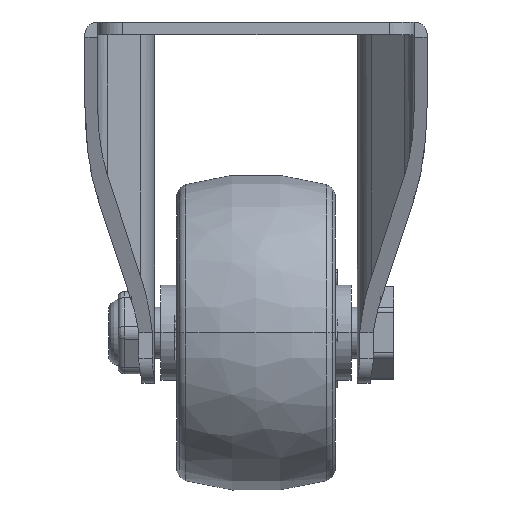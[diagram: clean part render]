
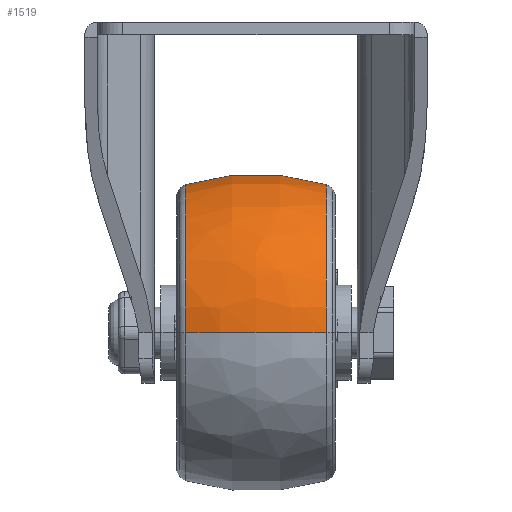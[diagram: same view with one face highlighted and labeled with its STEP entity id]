
A CAD part, left-side view. The second image highlights one B-rep face of the part: STEP entity #1519.
In plain terms, the highlighted free-form (B-spline) face has degree [3, 3] with [4, 4] control points.
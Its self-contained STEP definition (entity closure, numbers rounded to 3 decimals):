
#40=(
BOUNDED_SURFACE()
B_SPLINE_SURFACE(3,3,((#22896,#22897,#22898,#22899),(#22900,#22901,#22902,
#22903),(#22904,#22905,#22906,#22907),(#22908,#22909,#22910,#22911)),
 .UNSPECIFIED.,.F.,.F.,.F.)
B_SPLINE_SURFACE_WITH_KNOTS((4,4),(4,4),(0.,1.),(0.,1.),.UNSPECIFIED.)
GEOMETRIC_REPRESENTATION_ITEM()
RATIONAL_B_SPLINE_SURFACE(((1.,0.333,0.333,1.),(0.971,
0.324,0.324,0.971),(0.971,
0.324,0.324,0.971),(1.,0.333,
0.333,1.)))
REPRESENTATION_ITEM('')
SURFACE()
);
#734=FACE_OUTER_BOUND('',#3448,.T.);
#1519=ADVANCED_FACE('',(#734),#40,.T.);
#3448=EDGE_LOOP('',(#6507,#6508,#6509,#6510));
#4047=CIRCLE('',#15088,23.348);
#4050=CIRCLE('',#15103,38.);
#4051=CIRCLE('',#15104,23.348);
#4052=CIRCLE('',#15105,38.);
#6507=ORIENTED_EDGE('',*,*,#10975,.T.);
#6508=ORIENTED_EDGE('',*,*,#10976,.T.);
#6509=ORIENTED_EDGE('',*,*,#10977,.F.);
#6510=ORIENTED_EDGE('',*,*,#10966,.T.);
#9218=VERTEX_POINT('',#22851);
#9219=VERTEX_POINT('',#22853);
#9227=VERTEX_POINT('',#22892);
#9228=VERTEX_POINT('',#22894);
#10966=EDGE_CURVE('',#9218,#9219,#4047,.T.);
#10975=EDGE_CURVE('',#9219,#9227,#4050,.T.);
#10976=EDGE_CURVE('',#9227,#9228,#4051,.T.);
#10977=EDGE_CURVE('',#9218,#9228,#4052,.T.);
#15088=AXIS2_PLACEMENT_3D('',#22854,#17459,#17460);
#15103=AXIS2_PLACEMENT_3D('',#22891,#17494,#17495);
#15104=AXIS2_PLACEMENT_3D('',#22893,#17496,#17497);
#15105=AXIS2_PLACEMENT_3D('',#22895,#17498,#17499);
#17459=DIRECTION('',(0.,1.,0.));
#17460=DIRECTION('',(-1.,0.,0.));
#17494=DIRECTION('',(0.,0.,1.));
#17495=DIRECTION('',(0.957,-0.292,0.));
#17496=DIRECTION('',(0.,-1.,0.));
#17497=DIRECTION('',(1.,0.,0.));
#17498=DIRECTION('',(0.,0.,-1.));
#17499=DIRECTION('',(-0.957,-0.292,0.));
#22851=CARTESIAN_POINT('',(-23.348,-11.083,-49.));
#22853=CARTESIAN_POINT('',(23.348,-11.083,-49.));
#22854=CARTESIAN_POINT('',(0.,-11.083,-49.));
#22891=CARTESIAN_POINT('',(-13.,0.,-49.));
#22892=CARTESIAN_POINT('',(23.348,11.083,-49.));
#22893=CARTESIAN_POINT('',(0.,11.083,-49.));
#22894=CARTESIAN_POINT('',(-23.348,11.083,-49.));
#22895=CARTESIAN_POINT('',(13.,0.,-49.));
#22896=CARTESIAN_POINT('',(-23.348,11.083,-49.));
#22897=CARTESIAN_POINT('',(-23.348,11.083,-2.304));
#22898=CARTESIAN_POINT('',(23.348,11.083,-2.304));
#22899=CARTESIAN_POINT('',(23.348,11.083,-49.));
#22900=CARTESIAN_POINT('',(-25.567,3.805,-49.));
#22901=CARTESIAN_POINT('',(-25.567,3.805,2.134));
#22902=CARTESIAN_POINT('',(25.567,3.805,2.134));
#22903=CARTESIAN_POINT('',(25.567,3.805,-49.));
#22904=CARTESIAN_POINT('',(-25.567,-3.805,-49.));
#22905=CARTESIAN_POINT('',(-25.567,-3.805,2.134));
#22906=CARTESIAN_POINT('',(25.567,-3.805,2.134));
#22907=CARTESIAN_POINT('',(25.567,-3.805,-49.));
#22908=CARTESIAN_POINT('',(-23.348,-11.083,-49.));
#22909=CARTESIAN_POINT('',(-23.348,-11.083,-2.304));
#22910=CARTESIAN_POINT('',(23.348,-11.083,-2.304));
#22911=CARTESIAN_POINT('',(23.348,-11.083,-49.));
